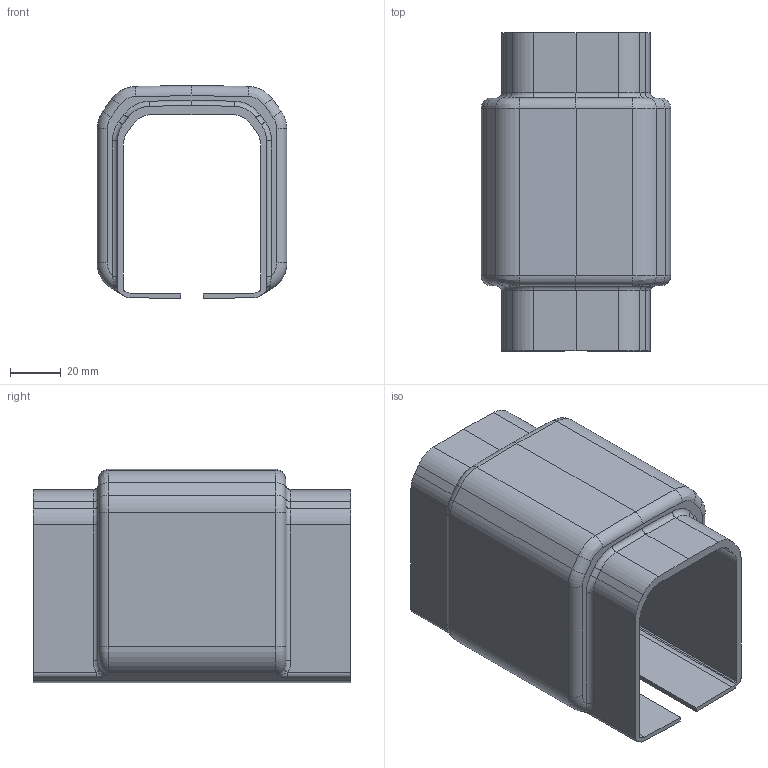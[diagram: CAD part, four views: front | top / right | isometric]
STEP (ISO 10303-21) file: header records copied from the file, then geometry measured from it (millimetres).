
FILE_DESCRIPTION(/* description */ ('Unknown'),/* implementation_level */ '2;1');
FILE_NAME(/* name */ 'MI2000_Couvre-joint Inno_SPL',/* time_stamp */ '2018-08-09T17:12:15+02:00',/* author */ ('Unknown'),/* organization */ ('Unknown'),/* preprocessor_version */ 'ST-DEVELOPER v16.7',/* originating_system */ 'DEX',/* authorisation */ $);
FILE_SCHEMA (('AUTOMOTIVE_DESIGN {1 0 10303 214 3 1 1}'));
Length unit declared in the file: millimetre
Products named in the file (1): MI2000_Couvre-joint Inno_SPL
Bounding box: 74.6 x 125 x 83.82 mm (x, y, z)
Volume: 194050.4 mm3; surface area: 65216.5 mm2
Topology: 1 solids, 1 shells, 125 faces, 313 edges, 186 vertices
Faces by surface type: cylinder 54, plane 37, bspline 18, torus 16
Entity records: 4227 total; most frequent: CARTESIAN_POINT 1251, DIRECTION 629, ORIENTED_EDGE 618, EDGE_CURVE 309, AXIS2_PLACEMENT_3D 236, VERTEX_POINT 186, LINE 157, VECTOR 157
